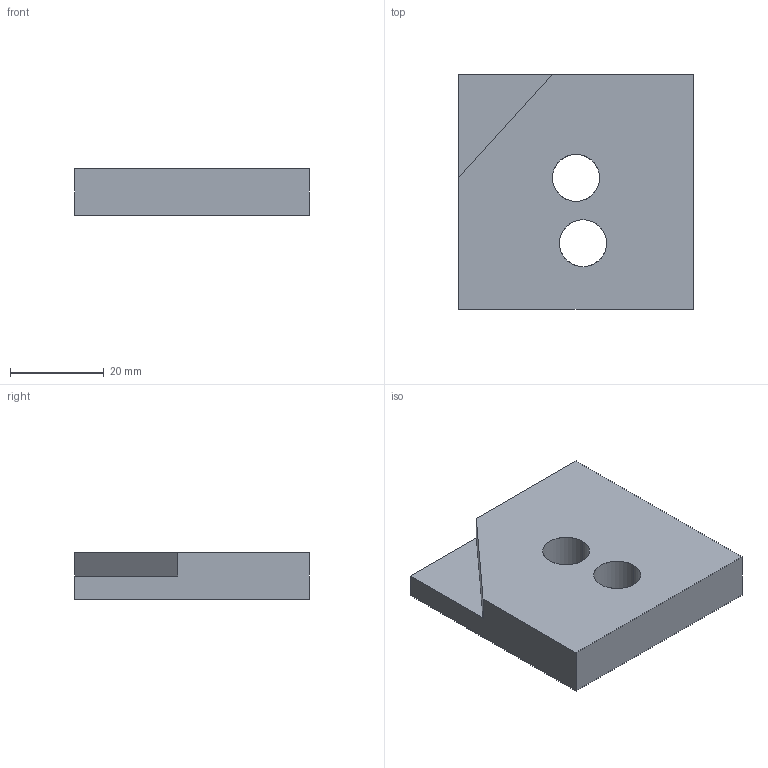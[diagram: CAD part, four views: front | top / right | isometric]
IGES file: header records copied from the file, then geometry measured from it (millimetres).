
Start section: SolidWorks IGES file using analytic representation for surfaces
Global section: file name: E:\Nouveau dossier\tarek\mécaniquee\L3GMCFM\TP0\EX1.IGS; native system: SolidWorks 2013; preprocessor: SolidWorks 2013; author: LENOVO; date: 180916.184718; units: millimetre
Bounding box: 50 x 50 x 10 mm (x, y, z)
Surface area: 7252.9 mm2 (no closed solid volume)
Topology: 0 solids, 0 shells, 12 faces, 180 edges, 180 vertices
Faces by surface type: bspline 8, revolution 4
